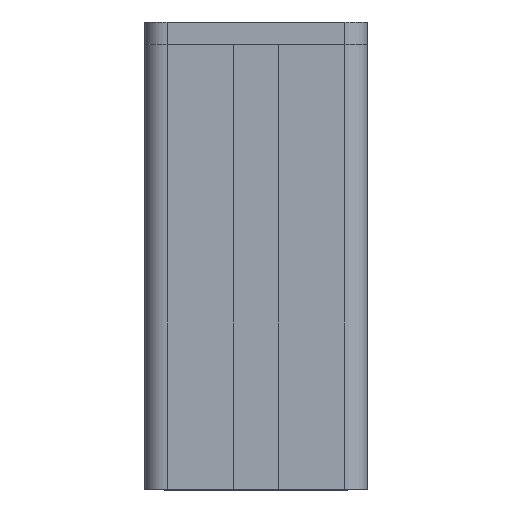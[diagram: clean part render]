
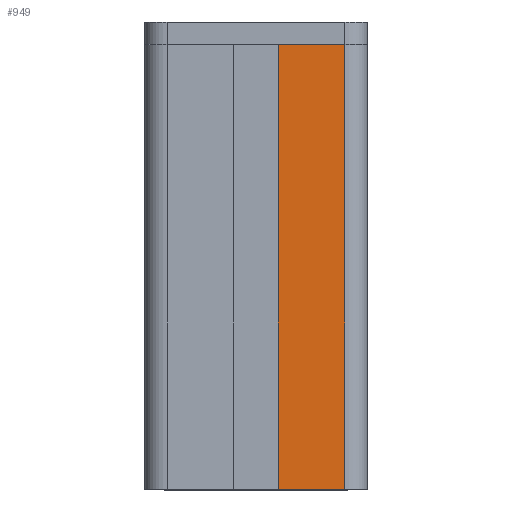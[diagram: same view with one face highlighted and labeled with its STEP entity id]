
A CAD part, top view. The second image highlights one B-rep face of the part: STEP entity #949.
In plain terms, the highlighted planar face has unit normal (0, 0, 1).
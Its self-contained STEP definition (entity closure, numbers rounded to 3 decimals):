
#592=LINE('',#4328,#756);
#594=LINE('',#4335,#758);
#649=LINE('',#4543,#813);
#650=LINE('',#4547,#814);
#756=VECTOR('',#3058,1.);
#758=VECTOR('',#3060,1.);
#813=VECTOR('',#3229,1.);
#814=VECTOR('',#3234,1.);
#949=ADVANCED_FACE('',(#1079),#1008,.F.);
#1008=PLANE('',#2798);
#1079=FACE_OUTER_BOUND('',#1176,.T.);
#1176=EDGE_LOOP('',(#1679,#1680,#1681,#1682));
#1679=ORIENTED_EDGE('',*,*,#2399,.T.);
#1680=ORIENTED_EDGE('',*,*,#2397,.F.);
#1681=ORIENTED_EDGE('',*,*,#2502,.F.);
#1682=ORIENTED_EDGE('',*,*,#2500,.T.);
#2060=VERTEX_POINT('',#4322);
#2062=VERTEX_POINT('',#4327);
#2064=VERTEX_POINT('',#4336);
#2150=VERTEX_POINT('',#4544);
#2397=EDGE_CURVE('',#2062,#2060,#592,.T.);
#2399=EDGE_CURVE('',#2064,#2060,#594,.T.);
#2500=EDGE_CURVE('',#2150,#2064,#649,.T.);
#2502=EDGE_CURVE('',#2150,#2062,#650,.T.);
#2798=AXIS2_PLACEMENT_3D('',#4548,#3235,#3236);
#3058=DIRECTION('',(0.,1.,0.));
#3060=DIRECTION('',(-1.,0.,0.));
#3229=DIRECTION('',(0.,1.,0.));
#3234=DIRECTION('',(-1.,0.,0.));
#3235=DIRECTION('',(0.,0.,-1.));
#3236=DIRECTION('',(0.,1.,0.));
#4322=CARTESIAN_POINT('',(24.,120.,-40.));
#4327=CARTESIAN_POINT('',(24.,40.,-40.));
#4328=CARTESIAN_POINT('',(24.,40.,-40.));
#4335=CARTESIAN_POINT('',(36.,120.,-40.));
#4336=CARTESIAN_POINT('',(36.,120.,-40.));
#4543=CARTESIAN_POINT('',(36.,40.,-40.));
#4544=CARTESIAN_POINT('',(36.,40.,-40.));
#4547=CARTESIAN_POINT('',(36.,40.,-40.));
#4548=CARTESIAN_POINT('',(36.,40.,-40.));
